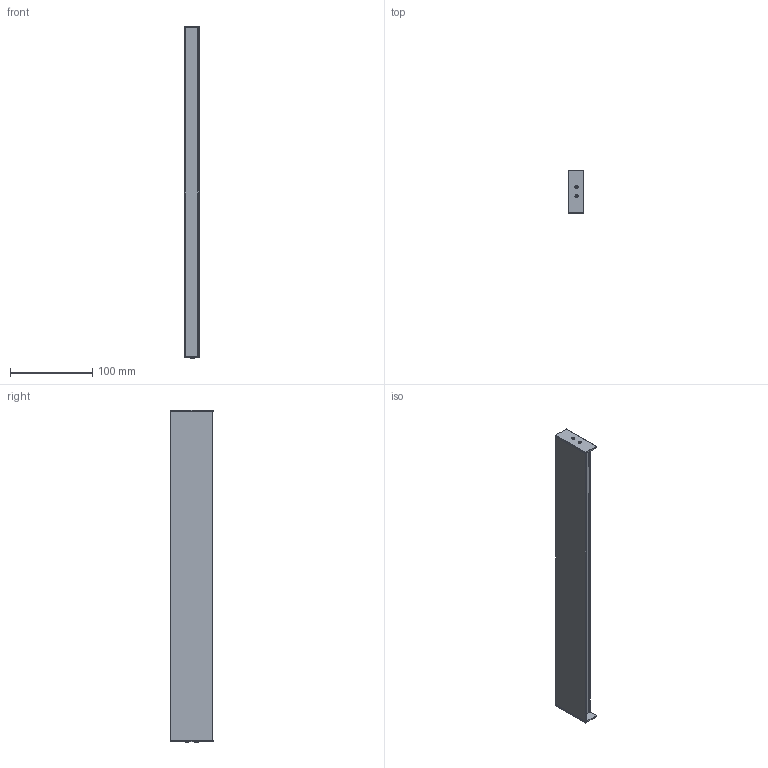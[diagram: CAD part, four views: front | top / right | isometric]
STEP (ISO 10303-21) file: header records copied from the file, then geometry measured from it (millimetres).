
FILE_DESCRIPTION (( 'STEP AP214' ), '1' );
FILE_NAME ('Veletta 5 .STEP', '2024-04-02T06:36:31', ( '' ), ( '' ), 'SwSTEP 2.0', 'SolidWorks 2021', '' );
FILE_SCHEMA (( 'AUTOMOTIVE_DESIGN' ));
Length unit declared in the file: millimetre
Products named in the file (1): Veletta 5 
Bounding box: 18.69 x 52 x 404.8 mm (x, y, z)
Volume: 101911 mm3; surface area: 141624.3 mm2
Topology: 15 solids, 15 shells, 650 faces, 1601 edges, 989 vertices
Faces by surface type: plane 234, cylinder 196, cone 150, torus 70
Entity records: 27533 total; most frequent: CARTESIAN_POINT 4847, DIRECTION 3337, ORIENTED_EDGE 3174, EDGE_CURVE 1587, AXIS2_PLACEMENT_3D 1275, VERTEX_POINT 989, LINE 787, VECTOR 787
